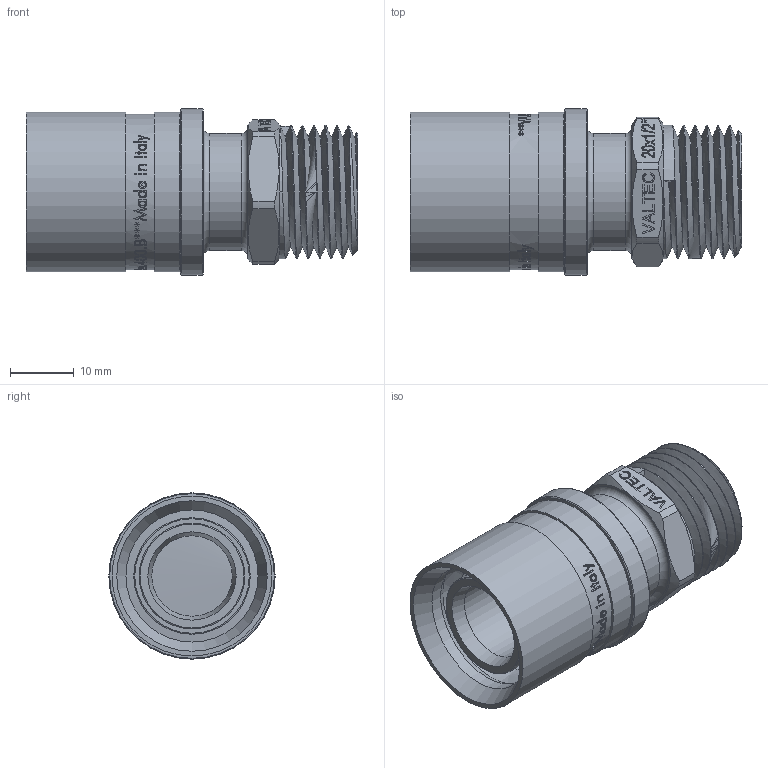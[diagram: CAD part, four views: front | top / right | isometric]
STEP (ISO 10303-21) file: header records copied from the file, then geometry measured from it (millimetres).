
FILE_DESCRIPTION(/* description */ (''),/* implementation_level */ '2;1');
FILE_NAME(/* name */ 'F:\Артём\00000\Работа удаленка\Аксеальные фитинги\VTm.401.BG.002004.stp',/* time_stamp */ '2021-01-25T14:11:40+03:00',/* author */ ('almis'),/* organization */ (''),/* preprocessor_version */ 'ST-DEVELOPER v18',/* originating_system */ 'Autodesk Inventor 2020',/* authorisation */ '');
FILE_SCHEMA (('AUTOMOTIVE_DESIGN { 1 0 10303 214 3 1 1 }'));
Length unit declared in the file: millimetre
Products named in the file (1): VTm.403.BG.001616
Bounding box: 51.76 x 26 x 26 mm (x, y, z)
Volume: 10388.8 mm3; surface area: 10487.8 mm2
Topology: 1 solids, 1 shells, 981 faces, 2679 edges, 1802 vertices
Faces by surface type: plane 424, bspline 419, cylinder 101, torus 24, cone 13
Full cylindrical faces by diameter (mm): 12.6 x1, 15.5 x1, 15.7 x5, 16.5 x4, 17.3 x7, 18.2 x1, 18.3 x1, 20.65 x2, 20.9 x6, 24.3 x1, 25 x2, 26 x1
Entity records: 39652 total; most frequent: CARTESIAN_POINT 17289, ORIENTED_EDGE 5358, DIRECTION 3323, EDGE_CURVE 2679, VERTEX_POINT 1802, LINE 1395, VECTOR 1395, EDGE_LOOP 1085
